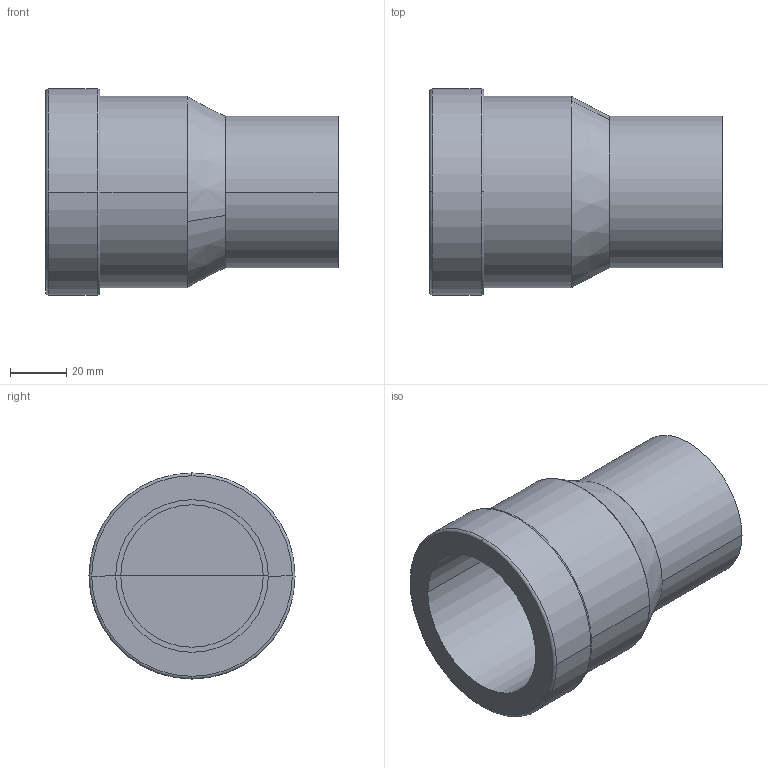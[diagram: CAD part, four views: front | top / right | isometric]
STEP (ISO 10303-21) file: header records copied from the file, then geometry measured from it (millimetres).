
FILE_DESCRIPTION (( 'STEP AP203' ), '1' );
FILE_NAME ('Viega_MegaPress_Coupling,Transition4813-4ZL - 2in.STEP', '2025-02-21T14:52:42', ( '' ), ( '' ), 'SwSTEP 2.0', 'SolidWorks 2020', '' );
FILE_SCHEMA (( 'CONFIG_CONTROL_DESIGN' ));
Length unit declared in the file: millimetre
Products named in the file (1): Viega_MegaPress_Coupling,Transition4813-4ZL - 2in
Bounding box: 104.23 x 73.5 x 73.5 mm (x, y, z)
Volume: 346389.7 mm3; surface area: 71304.5 mm2
Topology: 5 solids, 5 shells, 36 faces, 76 edges, 48 vertices
Faces by surface type: plane 16, cylinder 14, torus 4, cone 2
Entity records: 1065 total; most frequent: DIRECTION 202, CARTESIAN_POINT 161, ORIENTED_EDGE 152, AXIS2_PLACEMENT_3D 89, EDGE_CURVE 76, CIRCLE 52, VERTEX_POINT 48, EDGE_LOOP 38
